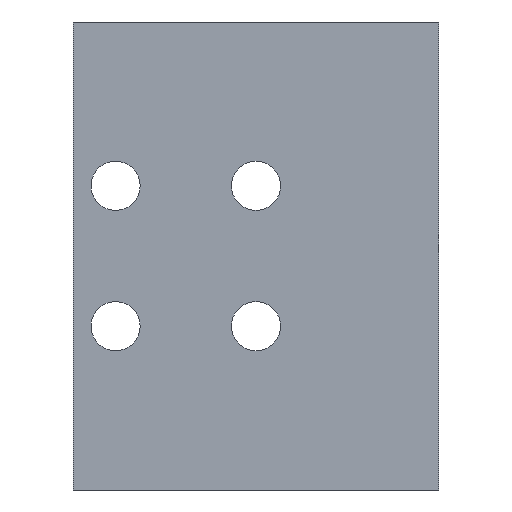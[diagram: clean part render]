
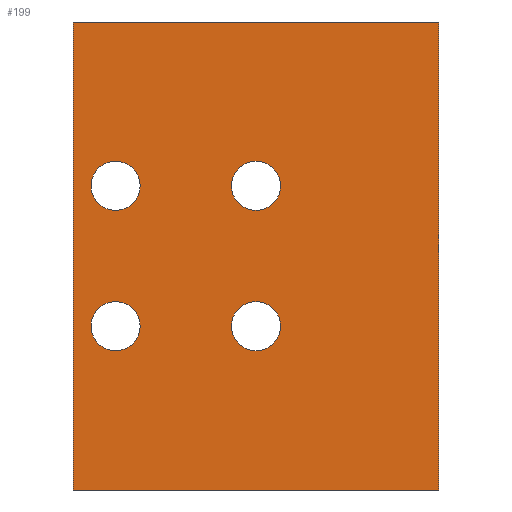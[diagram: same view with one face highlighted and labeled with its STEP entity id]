
A CAD part, front view. The second image highlights one B-rep face of the part: STEP entity #199.
In plain terms, the highlighted planar face has unit normal (0, -1, 0).
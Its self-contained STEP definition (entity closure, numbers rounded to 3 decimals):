
#107 = EDGE_CURVE( '', #151, #141, #275, .T. );
#111 = VERTEX_POINT( '', #279 );
#113 = VERTEX_POINT( '', #281 );
#117 = EDGE_CURVE( '', #169, #161, #285, .T. );
#125 = EDGE_CURVE( '', #201, #111, #296, .T. );
#127 = VERTEX_POINT( '', #298 );
#131 = EDGE_CURVE( '', #113, #163, #307, .T. );
#139 = EDGE_CURVE( '', #111, #201, #316, .T. );
#141 = VERTEX_POINT( '', #318 );
#143 = EDGE_CURVE( '', #209, #127, #320, .T. );
#151 = VERTEX_POINT( '', #329 );
#157 = EDGE_CURVE( '', #163, #113, #336, .T. );
#159 = VERTEX_POINT( '', #338 );
#161 = VERTEX_POINT( '', #340 );
#163 = VERTEX_POINT( '', #342 );
#167 = EDGE_CURVE( '', #141, #151, #346, .T. );
#169 = VERTEX_POINT( '', #348 );
#173 = EDGE_CURVE( '', #161, #127, #353, .T. );
#177 = VERTEX_POINT( '', #357 );
#185 = EDGE_CURVE( '', #177, #159, #365, .T. );
#197 = EDGE_CURVE( '', #169, #209, #377, .T. );
#199 = ADVANCED_FACE( '', ( #379, #380, #381, #382, #383 ), #384, .T. );
#201 = VERTEX_POINT( '', #386 );
#209 = VERTEX_POINT( '', #396 );
#235 = EDGE_CURVE( '', #159, #177, #423, .T. );
#275 = CIRCLE( '', #456, 5.25 );
#279 = CARTESIAN_POINT( '', ( -35.25, 0., -15. ) );
#281 = CARTESIAN_POINT( '', ( -5.25, 0., -15. ) );
#285 = LINE( '', #468, #469 );
#296 = CIRCLE( '', #481, 5.25 );
#298 = CARTESIAN_POINT( '', ( -39., 0., -50. ) );
#307 = CIRCLE( '', #493, 5.25 );
#316 = CIRCLE( '', #506, 5.25 );
#318 = CARTESIAN_POINT( '', ( -35.25, 0., 15. ) );
#320 = LINE( '', #511, #512 );
#329 = CARTESIAN_POINT( '', ( -24.75, 0., 15. ) );
#336 = CIRCLE( '', #530, 5.25 );
#338 = CARTESIAN_POINT( '', ( -5.25, 0., 15. ) );
#340 = CARTESIAN_POINT( '', ( -39., 0., 50. ) );
#342 = CARTESIAN_POINT( '', ( 5.25, 0., -15. ) );
#346 = CIRCLE( '', #543, 5.25 );
#348 = CARTESIAN_POINT( '', ( 39., 0., 50. ) );
#353 = LINE( '', #551, #552 );
#357 = CARTESIAN_POINT( '', ( 5.25, 0., 15. ) );
#365 = CIRCLE( '', #569, 5.25 );
#377 = LINE( '', #588, #589 );
#379 = FACE_BOUND( '', #591, .T. );
#380 = FACE_BOUND( '', #592, .T. );
#381 = FACE_BOUND( '', #593, .T. );
#382 = FACE_BOUND( '', #594, .T. );
#383 = FACE_OUTER_BOUND( '', #595, .T. );
#384 = PLANE( '', #596 );
#386 = CARTESIAN_POINT( '', ( -24.75, 0., -15. ) );
#396 = CARTESIAN_POINT( '', ( 39., 0., -50. ) );
#423 = CIRCLE( '', #649, 5.25 );
#456 = AXIS2_PLACEMENT_3D( '', #687, #688, #689 );
#468 = CARTESIAN_POINT( '', ( 39., 0., 50. ) );
#469 = VECTOR( '', #693, 1. );
#481 = AXIS2_PLACEMENT_3D( '', #718, #719, #720 );
#493 = AXIS2_PLACEMENT_3D( '', #737, #738, #739 );
#506 = AXIS2_PLACEMENT_3D( '', #752, #753, #754 );
#511 = CARTESIAN_POINT( '', ( 39., 0., -50. ) );
#512 = VECTOR( '', #755, 1. );
#530 = AXIS2_PLACEMENT_3D( '', #774, #775, #776 );
#543 = AXIS2_PLACEMENT_3D( '', #778, #779, #780 );
#551 = CARTESIAN_POINT( '', ( -39., 0., 50. ) );
#552 = VECTOR( '', #789, 1. );
#569 = AXIS2_PLACEMENT_3D( '', #792, #793, #794 );
#588 = CARTESIAN_POINT( '', ( 39., 0., 50. ) );
#589 = VECTOR( '', #803, 1. );
#591 = EDGE_LOOP( '', ( #805, #806 ) );
#592 = EDGE_LOOP( '', ( #807, #808 ) );
#593 = EDGE_LOOP( '', ( #809, #810 ) );
#594 = EDGE_LOOP( '', ( #811, #812 ) );
#595 = EDGE_LOOP( '', ( #813, #814, #815, #816 ) );
#596 = AXIS2_PLACEMENT_3D( '', #817, #818, #819 );
#649 = AXIS2_PLACEMENT_3D( '', #858, #859, #860 );
#687 = CARTESIAN_POINT( '', ( -30., 0., 15. ) );
#688 = DIRECTION( '', ( 0., 1., 0. ) );
#689 = DIRECTION( '', ( -1., 0., 0. ) );
#693 = DIRECTION( '', ( -1., 0., 0. ) );
#718 = CARTESIAN_POINT( '', ( -30., 0., -15. ) );
#719 = DIRECTION( '', ( 0., 1., 0. ) );
#720 = DIRECTION( '', ( -1., 0., 0. ) );
#737 = CARTESIAN_POINT( '', ( 0., 0., -15. ) );
#738 = DIRECTION( '', ( 0., 1., 0. ) );
#739 = DIRECTION( '', ( -1., 0., 0. ) );
#752 = CARTESIAN_POINT( '', ( -30., 0., -15. ) );
#753 = DIRECTION( '', ( 0., 1., 0. ) );
#754 = DIRECTION( '', ( -1., 0., 0. ) );
#755 = DIRECTION( '', ( -1., 0., 0. ) );
#774 = CARTESIAN_POINT( '', ( 0., 0., -15. ) );
#775 = DIRECTION( '', ( 0., 1., 0. ) );
#776 = DIRECTION( '', ( -1., 0., 0. ) );
#778 = CARTESIAN_POINT( '', ( -30., 0., 15. ) );
#779 = DIRECTION( '', ( 0., 1., 0. ) );
#780 = DIRECTION( '', ( -1., 0., 0. ) );
#789 = DIRECTION( '', ( 0., 0., -1. ) );
#792 = CARTESIAN_POINT( '', ( 0., 0., 15. ) );
#793 = DIRECTION( '', ( 0., 1., 0. ) );
#794 = DIRECTION( '', ( -1., 0., 0. ) );
#803 = DIRECTION( '', ( 0., 0., -1. ) );
#805 = ORIENTED_EDGE( '', *, *, #185, .T. );
#806 = ORIENTED_EDGE( '', *, *, #235, .T. );
#807 = ORIENTED_EDGE( '', *, *, #107, .T. );
#808 = ORIENTED_EDGE( '', *, *, #167, .T. );
#809 = ORIENTED_EDGE( '', *, *, #157, .T. );
#810 = ORIENTED_EDGE( '', *, *, #131, .T. );
#811 = ORIENTED_EDGE( '', *, *, #125, .T. );
#812 = ORIENTED_EDGE( '', *, *, #139, .T. );
#813 = ORIENTED_EDGE( '', *, *, #173, .T. );
#814 = ORIENTED_EDGE( '', *, *, #143, .F. );
#815 = ORIENTED_EDGE( '', *, *, #197, .F. );
#816 = ORIENTED_EDGE( '', *, *, #117, .T. );
#817 = CARTESIAN_POINT( '', ( 39., 0., 50. ) );
#818 = DIRECTION( '', ( 0., -1., 0. ) );
#819 = DIRECTION( '', ( 0., 0., 1. ) );
#858 = CARTESIAN_POINT( '', ( 0., 0., 15. ) );
#859 = DIRECTION( '', ( 0., 1., 0. ) );
#860 = DIRECTION( '', ( -1., 0., 0. ) );
